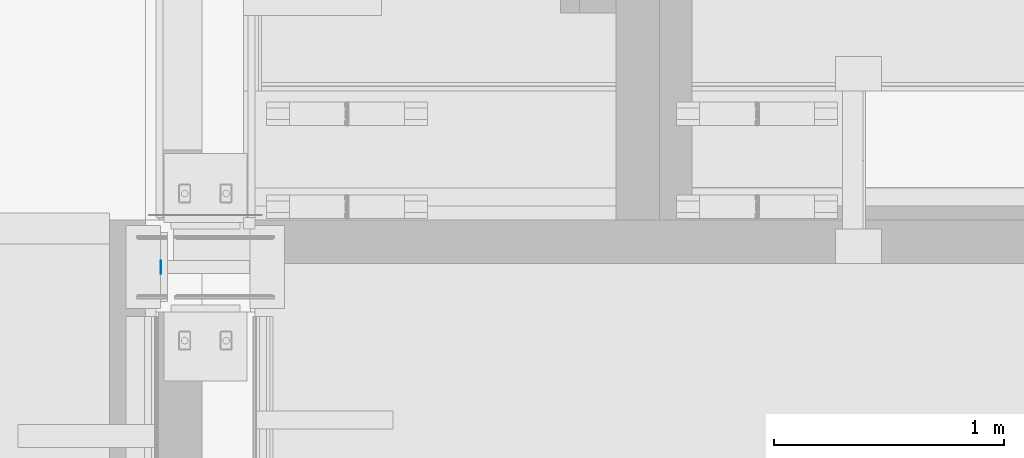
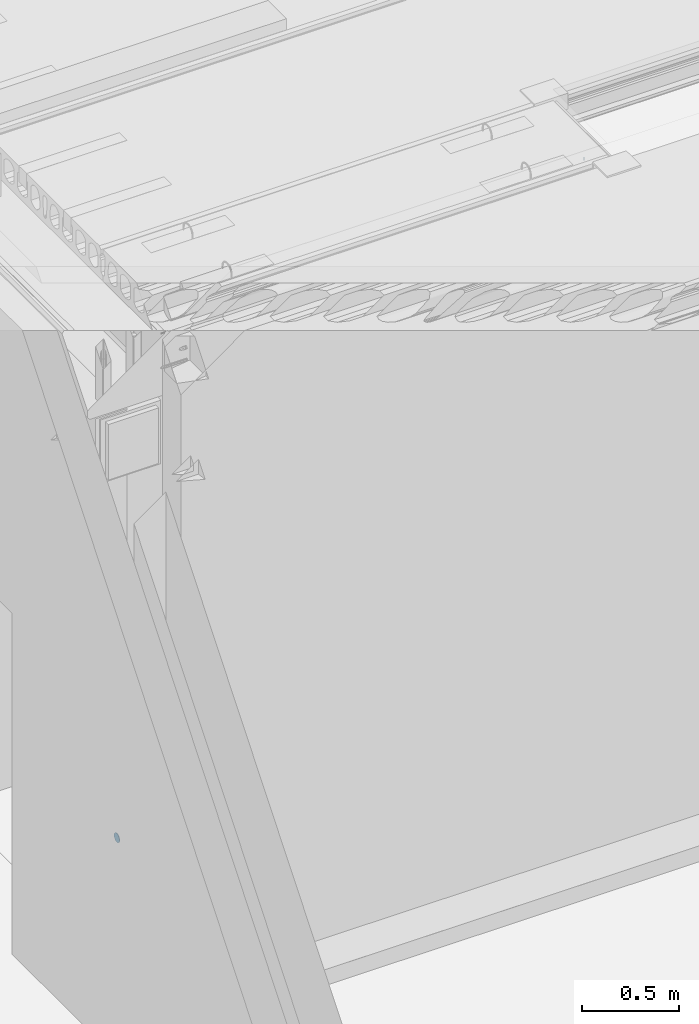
# One storey, part 45 of 230: 2 beams.
"""IFC4X3_ADD2 building model written with IfcOpenShell, lengths in millimetres."""

from ifc_helpers import new_model, si_unit, direction, frame, frame_2d, origin_with_axes, place, context, subcontext, project, spatial, indexed_curve, rectangle, outline, extrude, material, element, save


model = new_model("IFC4X3_ADD2")

# Units and contexts
model_context = context("Model", 3, precision=1e-05, world=origin_with_axes(), true_north=direction((0.0, 1.0)))
body_context = subcontext(model_context, "Body", "Model", "MODEL_VIEW")
ifc_project = project(units=[si_unit("LENGTHUNIT", "METRE", prefix="MILLI"), si_unit("AREAUNIT", "SQUARE_METRE"), si_unit("VOLUMEUNIT", "CUBIC_METRE"), si_unit("PLANEANGLEUNIT", "RADIAN"), si_unit("TIMEUNIT", "SECOND"), si_unit("MASSUNIT", "GRAM")], contexts=[model_context])

# Site, building, storey
site_placement = place(None, origin_with_axes())
site = spatial("IfcSite", under=ifc_project, at=site_placement, Name="Site", CompositionType="ELEMENT")
building_placement = place(site_placement, origin_with_axes())
building = spatial("IfcBuilding", under=site, at=building_placement, Name="IFC Building Story")
storey_placement = place(building_placement, origin_with_axes())
storey = spatial("IfcBuildingStorey", under=building, at=storey_placement, Name="ETAGE 00 (0)", Elevation=0.0)

# Beams
ifc_material_1 = material(Name="STEEL/Accessory")
beam_1_placement = place(storey_placement, frame((42828.1896207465, 660.0, 4010.0), z_axis=(-1.0, 0.0, 0.0), x_axis=(0.0, 0.0, 1.0)))
element("IfcBeam", 1, at=beam_1_placement, inside=storey, material=ifc_material_1, Name="RAV200", ObjectType="1*1", context=body_context, shape_type="SweptSolid", body=[
    extrude(rectangle(XDim=19.9999999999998, YDim=1.0, at=frame_2d((0.0, 5.95523630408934e-12), x_axis=(1.0, 0.0))), origin_with_axes(), (0.0, 0.0, 1.0), 1.0),
])
ifc_material_2 = material(Name="STEEL/Accessory 22919")
beam_2_placement = place(storey_placement, frame((39774.18900000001, 195.0, 1080.0), z_axis=(-1.0, 0.0, 0.0), x_axis=(0.0, 0.1950903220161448, 0.9807852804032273)))
element("IfcBeam", 2, at=beam_2_placement, inside=storey, material=ifc_material_2, Name="TA4", ObjectType="D56", context=body_context, shape_type="SweptSolid", body=[
    extrude(outline(indexed_curve([(23.28114914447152, 15.55596652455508), (27.46198785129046, 5.462529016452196), (27.46198785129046, -5.462529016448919), (23.28114914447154, -15.55596652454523), (15.55596652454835, -23.28114914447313), (5.462529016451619, -27.46198785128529), (-5.462529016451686, -27.46198785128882), (-15.55596652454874, -23.28114914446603), (-23.2811491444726, -15.55596652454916), (-27.46198785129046, -5.462529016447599), (-27.46198785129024, 5.462529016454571), (-23.28114914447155, 15.55596652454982), (-15.55596652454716, 23.28114914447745), (-5.462529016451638, 27.46198785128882), (5.462529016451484, 27.46198785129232), (15.55596652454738, 23.28114914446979), (23.28114914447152, 15.55596652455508)])), origin_with_axes(), (0.0, 0.0, 1.0), 3.000000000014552),
])

save(model, "model.ifc")
